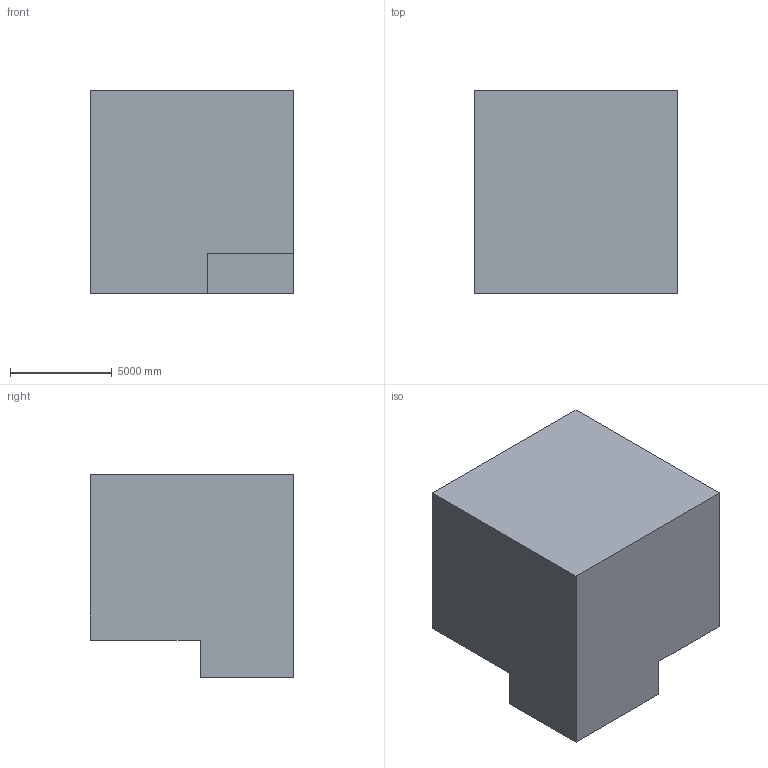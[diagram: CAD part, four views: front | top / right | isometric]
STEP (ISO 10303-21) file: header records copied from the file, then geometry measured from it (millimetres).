
FILE_DESCRIPTION (( 'STEP AP203' ), '1' );
FILE_NAME ('1166.STEP', '2022-08-18T13:01:15', ( 'user' ), ( '' ), 'SwSTEP 2.0', 'SolidWorks 2021', '' );
FILE_SCHEMA (( 'CONFIG_CONTROL_DESIGN' ));
Length unit declared in the file: centimetre
Products named in the file (1): 1166
Bounding box: 10000 x 10000 x 10000 mm (x, y, z)
Volume: 826848189201 mm3; surface area: 569905511.4 mm2
Topology: 1 solids, 1 shells, 11 faces, 27 edges, 18 vertices
Faces by surface type: plane 11
Entity records: 398 total; most frequent: CARTESIAN_POINT 57, ORIENTED_EDGE 54, DIRECTION 51, EDGE_CURVE 27, LINE 27, VECTOR 27, VERTEX_POINT 18, AXIS2_PLACEMENT_3D 12
